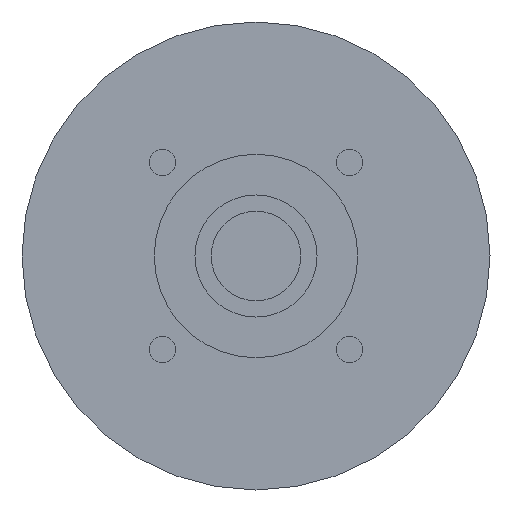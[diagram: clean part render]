
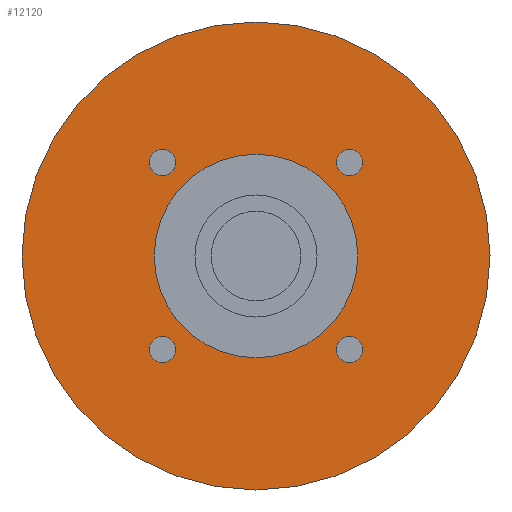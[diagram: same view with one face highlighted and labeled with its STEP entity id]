
A CAD part, left-side view. The second image highlights one B-rep face of the part: STEP entity #12120.
In plain terms, the highlighted planar face has unit normal (-1, 0, 0) as drawn and (0, 0, -1) by its records, which use the part's own axes.
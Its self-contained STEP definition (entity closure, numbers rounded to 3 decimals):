
#9160=CARTESIAN_POINT('',(-19.731,22.981,-65.601));
#9170=VERTEX_POINT('',#9160);
#9200=CARTESIAN_POINT('',(-22.981,22.981,-65.601));
#9210=DIRECTION('',(0.,0.,-1.));
#9220=DIRECTION('',(-1.,0.,0.));
#9230=AXIS2_PLACEMENT_3D('',#9200,#9210,#9220);
#9240=CIRCLE('',#9230,3.25);
#9250=CARTESIAN_POINT('',(-26.231,22.981,-65.601));
#9260=VERTEX_POINT('',#9250);
#9270=EDGE_CURVE('',#9260,#9170,#9240,.T.);
#11050=CARTESIAN_POINT('',(57.5,0.,-65.601));
#11060=VERTEX_POINT('',#11050);
#11090=CARTESIAN_POINT('',(0.,0.,
-65.601));
#11100=DIRECTION('',(0.,0.,-1.));
#11110=DIRECTION('',(0.,-1.,0.));
#11120=AXIS2_PLACEMENT_3D('',#11090,#11100,#11110);
#11130=CIRCLE('',#11120,57.5);
#11140=CARTESIAN_POINT('',(0.,-57.5,-65.601));
#11150=VERTEX_POINT('',#11140);
#11160=EDGE_CURVE('',#11060,#11150,#11130,.T.);
#11180=CARTESIAN_POINT('',(-57.5,0.,-65.601));
#11190=VERTEX_POINT('',#11180);
#11200=EDGE_CURVE('',#11150,#11190,#11130,.T.);
#11320=CARTESIAN_POINT('',(0.,0.,
-65.601));
#11330=DIRECTION('',(0.,0.,-1.));
#11340=DIRECTION('',(1.,0.,0.));
#11350=AXIS2_PLACEMENT_3D('',#11320,#11330,#11340);
#11360=PLANE('',#11350);
#11370=CARTESIAN_POINT('',(22.981,22.981,-65.601));
#11380=DIRECTION('',(0.,0.,-1.));
#11390=DIRECTION('',(0.,1.,0.));
#11400=AXIS2_PLACEMENT_3D('',#11370,#11380,#11390);
#11410=CIRCLE('',#11400,3.25);
#11420=CARTESIAN_POINT('',(22.981,26.231,-65.601));
#11430=VERTEX_POINT('',#11420);
#11440=CARTESIAN_POINT('',(22.981,19.731,-65.601));
#11450=VERTEX_POINT('',#11440);
#11460=EDGE_CURVE('',#11430,#11450,#11410,.T.);
#11470=ORIENTED_EDGE('',*,*,#11460,.F.);
#11480=EDGE_CURVE('',#11450,#11430,#11410,.T.);
#11490=ORIENTED_EDGE('',*,*,#11480,.F.);
#11500=EDGE_LOOP('',(#11490,#11470));
#11510=FACE_BOUND('',#11500,.T.);
#11520=ORIENTED_EDGE('',*,*,#9270,.F.);
#11530=EDGE_CURVE('',#9170,#9260,#9240,.T.);
#11540=ORIENTED_EDGE('',*,*,#11530,.F.);
#11550=EDGE_LOOP('',(#11540,#11520));
#11560=FACE_BOUND('',#11550,.T.);
#11570=CARTESIAN_POINT('',(-22.981,-22.981,-65.601))
;
#11580=DIRECTION('',(0.,0.,-1.));
#11590=DIRECTION('',(0.,-1.,0.));
#11600=AXIS2_PLACEMENT_3D('',#11570,#11580,#11590);
#11610=CIRCLE('',#11600,3.25);
#11620=CARTESIAN_POINT('',(-22.981,-26.231,-65.601))
;
#11630=VERTEX_POINT('',#11620);
#11640=CARTESIAN_POINT('',(-22.981,-19.731,-65.601))
;
#11650=VERTEX_POINT('',#11640);
#11660=EDGE_CURVE('',#11630,#11650,#11610,.T.);
#11670=ORIENTED_EDGE('',*,*,#11660,.F.);
#11680=EDGE_CURVE('',#11650,#11630,#11610,.T.);
#11690=ORIENTED_EDGE('',*,*,#11680,.F.);
#11700=EDGE_LOOP('',(#11690,#11670));
#11710=FACE_BOUND('',#11700,.T.);
#11720=CARTESIAN_POINT('',(0.,0.,
-65.601));
#11730=DIRECTION('',(0.,0.,1.));
#11740=DIRECTION('',(0.,1.,0.));
#11750=AXIS2_PLACEMENT_3D('',#11720,#11730,#11740);
#11760=CIRCLE('',#11750,25.);
#11770=CARTESIAN_POINT('',(-25.,0.,-65.601));
#11780=VERTEX_POINT('',#11770);
#11790=CARTESIAN_POINT('',(25.,0.,-65.601));
#11800=VERTEX_POINT('',#11790);
#11810=EDGE_CURVE('',#11780,#11800,#11760,.T.);
#11820=ORIENTED_EDGE('',*,*,#11810,.T.);
#11830=CARTESIAN_POINT('',(0.,25.,-65.601));
#11840=VERTEX_POINT('',#11830);
#11850=EDGE_CURVE('',#11840,#11780,#11760,.T.);
#11860=ORIENTED_EDGE('',*,*,#11850,.T.);
#11870=EDGE_CURVE('',#11800,#11840,#11760,.T.);
#11880=ORIENTED_EDGE('',*,*,#11870,.T.);
#11890=EDGE_LOOP('',(#11880,#11860,#11820));
#11900=FACE_BOUND('',#11890,.T.);
#11910=CARTESIAN_POINT('',(22.981,-22.981,-65.601));
#11920=DIRECTION('',(0.,0.,-1.));
#11930=DIRECTION('',(1.,0.,0.));
#11940=AXIS2_PLACEMENT_3D('',#11910,#11920,#11930);
#11950=CIRCLE('',#11940,3.25);
#11960=CARTESIAN_POINT('',(26.231,-22.981,-65.601));
#11970=VERTEX_POINT('',#11960);
#11980=CARTESIAN_POINT('',(19.731,-22.981,-65.601));
#11990=VERTEX_POINT('',#11980);
#12000=EDGE_CURVE('',#11970,#11990,#11950,.T.);
#12010=ORIENTED_EDGE('',*,*,#12000,.F.);
#12020=EDGE_CURVE('',#11990,#11970,#11950,.T.);
#12030=ORIENTED_EDGE('',*,*,#12020,.F.);
#12040=EDGE_LOOP('',(#12030,#12010));
#12050=FACE_BOUND('',#12040,.T.);
#12060=EDGE_CURVE('',#11190,#11060,#11130,.T.);
#12070=ORIENTED_EDGE('',*,*,#12060,.T.);
#12080=ORIENTED_EDGE('',*,*,#11200,.T.);
#12090=ORIENTED_EDGE('',*,*,#11160,.T.);
#12100=EDGE_LOOP('',(#12090,#12080,#12070));
#12110=FACE_OUTER_BOUND('',#12100,.T.);
#12120=ADVANCED_FACE('',(#11510,#11560,#11710,#11900,#12050,#12110),
#11360,.T.);
